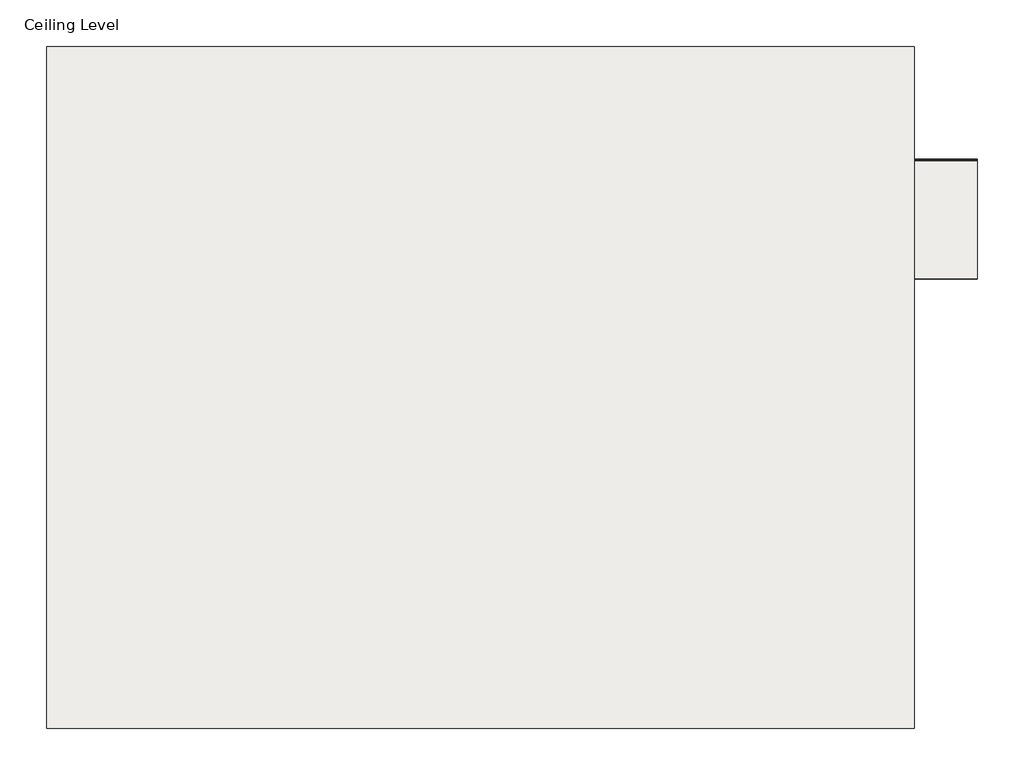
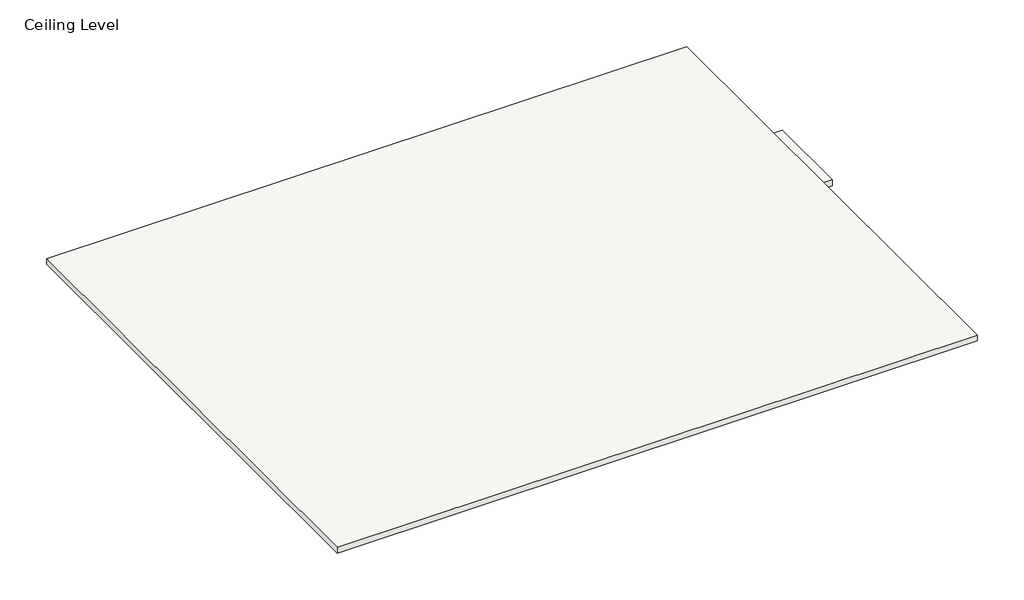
# One storey: 7 coverings.
"""IFC4 building model written with IfcOpenShell, lengths in millimetres."""

from ifc_helpers import new_model, si_unit, frame, origin, place, context, project, spatial, polyline, outline, extrude, element, save

model = new_model("IFC4")

# Units and contexts
model_context = context("Model", 3, world=origin())
ifc_project = project(units=[si_unit("LENGTHUNIT", "METRE", prefix="MILLI")], contexts=[model_context])

# Site, building, storey
site = spatial("IfcSite", under=ifc_project)
building = spatial("IfcBuilding", under=site)
storey = spatial("IfcBuildingStorey", under=building, Name="Ceiling Level", Elevation=0.0)

# Coverings
placement = place(None, origin())
element("IfcCovering", 1, ObjectType="Rockfon Sonar dB 41 E24 (white) 1200 x 600 x 35 mm", at=placement, inside=storey, context=model_context, shape_type="SweptSolid", body=[
    extrude(outline(polyline([(-7000.9781072, 8795.7122432), (-7000.9781072, 5895.7122432), (-10690.9781072, 5895.7122432), (-10690.9781072, 8795.7122432), (-7000.9781072, 8795.7122432)])), frame((0.0, 0.0, 1.0), z_axis=(0.0, 0.0, 1.0), x_axis=(1.0, 0.0, 0.0)), (0.0, 0.0, 1.0), 35.0),
])
element("IfcCovering", 2, ObjectType="Rockfon Sonar dB 41 E24 (white) 600 x 600 x 35 mm", at=placement, inside=storey, context=model_context, shape_type="SweptSolid", body=[
    extrude(outline(polyline([(-6733.0033126, 8306.1440543), (-6733.0033126, 7806.1440543), (-7133.0033126, 7806.1440543), (-7133.0033126, 8306.1440543), (-6733.0033126, 8306.1440543)])), frame((0.0, 0.0, -1441.6323567), z_axis=(0.0, 0.0, 1.0), x_axis=(1.0, 0.0, 0.0)), (0.0, 0.0, 1.0), 35.0),
])
element("IfcCovering", 3, ObjectType="Rockfon Sonar dB 41 E15 (white) 600 x 600 x 35 mm", at=placement, inside=storey, context=model_context, shape_type="SweptSolid", body=[
    extrude(outline(polyline([(-6733.0033126, 8309.016731), (-6733.0033126, 7809.016731), (-7133.0033126, 7809.016731), (-7133.0033126, 8309.016731), (-6733.0033126, 8309.016731)])), frame((0.0, 0.0, -1270.4130986), z_axis=(0.0, 0.0, 1.0), x_axis=(1.0, 0.0, 0.0)), (0.0, 0.0, 1.0), 35.0),
])
element("IfcCovering", 4, ObjectType="Rockfon Sonar dB 41 A24 (white) 600 x 600 x 35 mm", at=placement, inside=storey, context=model_context, shape_type="SweptSolid", body=[
    extrude(outline(polyline([(-6733.0033126, 8308.946465), (-6733.0033126, 7808.946465), (-7133.0033126, 7808.946465), (-7133.0033126, 8308.946465), (-6733.0033126, 8308.946465)])), frame((0.0, 0.0, -306.9770129), z_axis=(0.0, 0.0, 1.0), x_axis=(1.0, 0.0, 0.0)), (0.0, 0.0, 1.0), 35.0),
])
element("IfcCovering", 5, ObjectType="Rockfon Sonar dB 41 D (white) 600 x 600 x 35 mm", at=placement, inside=storey, context=model_context, shape_type="SweptSolid", body=[
    extrude(outline(polyline([(-6733.0033126, 8312.1160076), (-6733.0033126, 7812.1160076), (-7133.0033126, 7812.1160076), (-7133.0033126, 8312.1160076), (-6733.0033126, 8312.1160076)])), frame((0.0, 0.0, -458.1586283), z_axis=(0.0, 0.0, 1.0), x_axis=(1.0, 0.0, 0.0)), (0.0, 0.0, 1.0), 35.0),
])
element("IfcCovering", 6, ObjectType="Rockfon Sonar dB 41 Dznl/A100 (white) 1200 x 300 x 35 mm", at=placement, inside=storey, context=model_context, shape_type="SweptSolid", body=[
    extrude(outline(polyline([(-6733.0033126, 8315.8070296), (-6733.0033126, 7815.8070296), (-7133.0033126, 7815.8070296), (-7133.0033126, 8315.8070296), (-6733.0033126, 8315.8070296)])), frame((0.0, 0.0, -697.5344888), z_axis=(0.0, 0.0, 1.0), x_axis=(1.0, 0.0, 0.0)), (0.0, 0.0, 1.0), 35.0),
])
element("IfcCovering", 7, ObjectType="Rockfon Sonar dB 41 Dznl/A24 (white) 1200 x 300 x 35 mm", at=placement, inside=storey, context=model_context, shape_type="SweptSolid", body=[
    extrude(outline(polyline([(-6733.0033126, 8315.4725893), (-6733.0033126, 7815.4725893), (-7133.0033126, 7815.4725893), (-7133.0033126, 8315.4725893), (-6733.0033126, 8315.4725893)])), frame((0.0, 0.0, -1036.0689886), z_axis=(0.0, 0.0, 1.0), x_axis=(1.0, 0.0, 0.0)), (0.0, 0.0, 1.0), 35.0),
])

save(model, "model.ifc")
